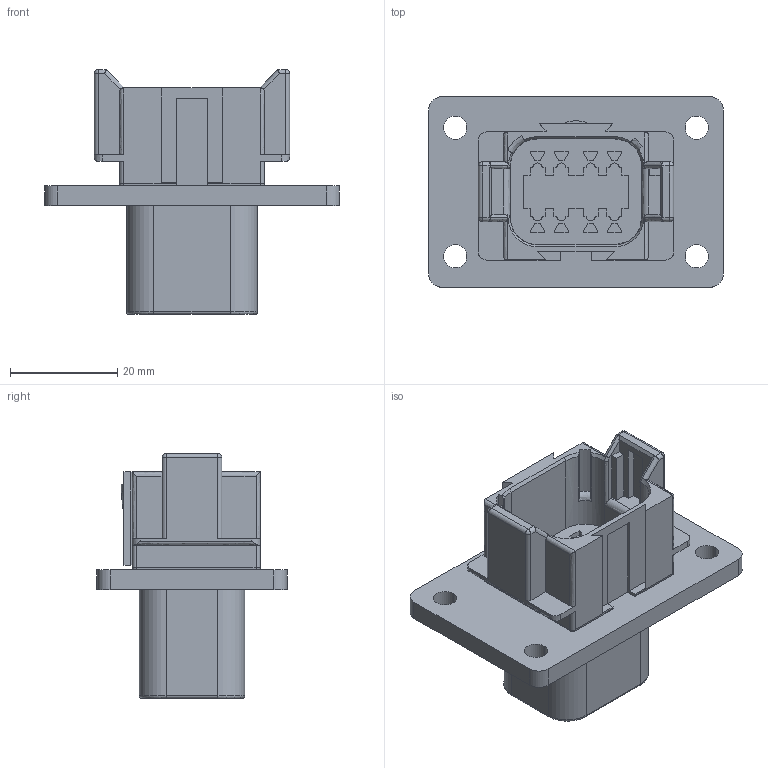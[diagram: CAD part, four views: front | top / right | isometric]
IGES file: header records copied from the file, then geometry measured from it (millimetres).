
Start section:  PTC IGES file: c-dt04-08pa-cl03-99-3d.igs
Global section: file name: c-dt04-08pa-cl03-99-3d.igs; native system: Pro/ENGINEER by Parametric Technology Corporation; preprocessor: 2011490; author: workeradm; organization: Unknown; units: millimetre
Bounding box: 54.99 x 35.51 x 45.67 mm (x, y, z)
Surface area: 11001.7 mm2 (no closed solid volume)
Topology: 0 solids, 0 shells, 524 faces, 2748 edges, 2748 vertices
Faces by surface type: bspline 345, revolution 179
